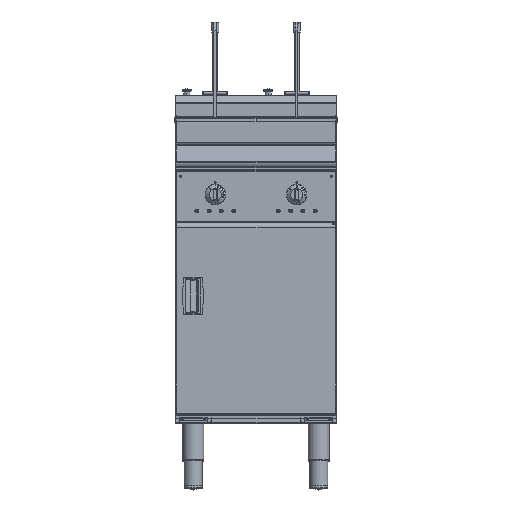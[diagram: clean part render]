
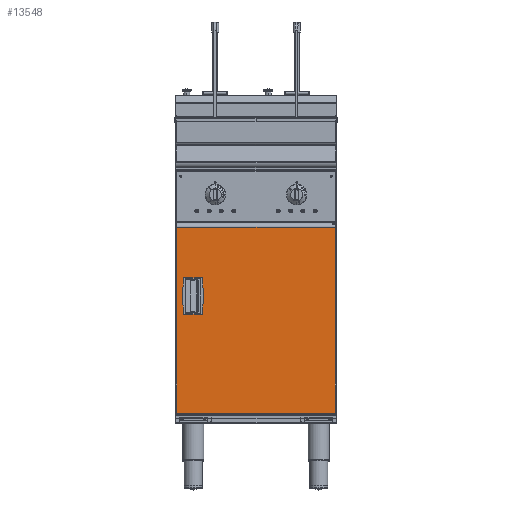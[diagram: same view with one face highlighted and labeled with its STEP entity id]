
A CAD part, top view. The second image highlights one B-rep face of the part: STEP entity #13548.
In plain terms, the highlighted planar face has unit normal (0, 0, 1).
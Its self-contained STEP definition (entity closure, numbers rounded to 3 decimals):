
#998 = CARTESIAN_POINT ( 'NONE',  ( 195.5, -725.1, -0.5 ) ) ;
#1050 = DIRECTION ( 'NONE',  ( -1., 0., 0. ) ) ;
#1398 = VERTEX_POINT ( 'NONE', #8304 ) ;
#2312 = LINE ( 'NONE', #48847, #25837 ) ;
#3746 = EDGE_CURVE ( 'NONE', #18654, #20071, #25296, .T. ) ;
#6996 = ORIENTED_EDGE ( 'NONE', *, *, #32562, .T. ) ;
#8304 = CARTESIAN_POINT ( 'NONE',  ( 193.5, -269.1, -0.5 ) ) ;
#10792 = DIRECTION ( 'NONE',  ( -1., 0., 0. ) ) ;
#11440 = VECTOR ( 'NONE', #40803, 1000. ) ;
#12671 = VECTOR ( 'NONE', #57671, 1000. ) ;
#13548 = ADVANCED_FACE ( 'NONE', ( #37859, #22127 ), #47224, .T. ) ;
#14012 = CARTESIAN_POINT ( 'NONE',  ( 193.5, -723.1, -0.5 ) ) ;
#14591 = ORIENTED_EDGE ( 'NONE', *, *, #59472, .F. ) ;
#14952 = DIRECTION ( 'NONE',  ( 1., 0., 0. ) ) ;
#15059 = LINE ( 'NONE', #35455, #11440 ) ;
#15531 = LINE ( 'NONE', #62017, #44603 ) ;
#16653 = CARTESIAN_POINT ( 'NONE',  ( -172., -479.6, -0.5 ) ) ;
#18654 = VERTEX_POINT ( 'NONE', #39798 ) ;
#20071 = VERTEX_POINT ( 'NONE', #33404 ) ;
#20546 = VERTEX_POINT ( 'NONE', #16653 ) ;
#21519 = CARTESIAN_POINT ( 'NONE',  ( -172., -394.6, -0.5 ) ) ;
#21940 = VERTEX_POINT ( 'NONE', #45948 ) ;
#22127 = FACE_OUTER_BOUND ( 'NONE', #57398, .T. ) ;
#25296 = LINE ( 'NONE', #45345, #49680 ) ;
#25746 = VECTOR ( 'NONE', #10792, 1000. ) ;
#25837 = VECTOR ( 'NONE', #49530, 1000. ) ;
#26386 = DIRECTION ( 'NONE',  ( 0., 1., 0. ) ) ;
#28623 = AXIS2_PLACEMENT_3D ( 'NONE', #998, #57625, #37169 ) ;
#29323 = EDGE_CURVE ( 'NONE', #42134, #52653, #31574, .T. ) ;
#29347 = EDGE_LOOP ( 'NONE', ( #14591, #54961, #34872, #47875 ) ) ;
#31574 = LINE ( 'NONE', #42596, #25746 ) ;
#31582 = ORIENTED_EDGE ( 'NONE', *, *, #54639, .T. ) ;
#32091 = CARTESIAN_POINT ( 'NONE',  ( -193.5, -269.1, -0.5 ) ) ;
#32562 = EDGE_CURVE ( 'NONE', #1398, #38806, #15531, .T. ) ;
#33007 = VECTOR ( 'NONE', #26386, 1000. ) ;
#33394 = EDGE_CURVE ( 'NONE', #42134, #1398, #56494, .T. ) ;
#33404 = CARTESIAN_POINT ( 'NONE',  ( -135.9, -394.6, -0.5 ) ) ;
#34872 = ORIENTED_EDGE ( 'NONE', *, *, #3746, .F. ) ;
#35455 = CARTESIAN_POINT ( 'NONE',  ( -193.5, -269.1, -0.5 ) ) ;
#36002 = LINE ( 'NONE', #56435, #49310 ) ;
#37169 = DIRECTION ( 'NONE',  ( 1., 0., 0. ) ) ;
#37586 = CARTESIAN_POINT ( 'NONE',  ( -193.5, -723.1, -0.5 ) ) ;
#37859 = FACE_BOUND ( 'NONE', #29347, .T. ) ;
#38806 = VERTEX_POINT ( 'NONE', #32091 ) ;
#39798 = CARTESIAN_POINT ( 'NONE',  ( -135.9, -479.6, -0.5 ) ) ;
#40803 = DIRECTION ( 'NONE',  ( 0., -1., 0. ) ) ;
#42134 = VERTEX_POINT ( 'NONE', #14012 ) ;
#42596 = CARTESIAN_POINT ( 'NONE',  ( 195.5, -723.1, -0.5 ) ) ;
#44603 = VECTOR ( 'NONE', #1050, 1000. ) ;
#45007 = DIRECTION ( 'NONE',  ( 0., 1., 0. ) ) ;
#45345 = CARTESIAN_POINT ( 'NONE',  ( -135.9, -394.6, -0.5 ) ) ;
#45948 = CARTESIAN_POINT ( 'NONE',  ( -172., -394.6, -0.5 ) ) ;
#47224 = PLANE ( 'NONE',  #28623 ) ;
#47875 = ORIENTED_EDGE ( 'NONE', *, *, #57866, .F. ) ;
#48847 = CARTESIAN_POINT ( 'NONE',  ( -172., -394.6, -0.5 ) ) ;
#49310 = VECTOR ( 'NONE', #14952, 1000. ) ;
#49530 = DIRECTION ( 'NONE',  ( 0., -1., 0. ) ) ;
#49680 = VECTOR ( 'NONE', #45007, 1000. ) ;
#49980 = ORIENTED_EDGE ( 'NONE', *, *, #33394, .T. ) ;
#52653 = VERTEX_POINT ( 'NONE', #37586 ) ;
#53691 = ORIENTED_EDGE ( 'NONE', *, *, #29323, .F. ) ;
#54639 = EDGE_CURVE ( 'NONE', #38806, #52653, #15059, .T. ) ;
#54961 = ORIENTED_EDGE ( 'NONE', *, *, #55986, .F. ) ;
#55986 = EDGE_CURVE ( 'NONE', #20071, #21940, #56666, .T. ) ;
#56435 = CARTESIAN_POINT ( 'NONE',  ( -172., -479.6, -0.5 ) ) ;
#56494 = LINE ( 'NONE', #57832, #33007 ) ;
#56666 = LINE ( 'NONE', #21519, #12671 ) ;
#57398 = EDGE_LOOP ( 'NONE', ( #53691, #49980, #6996, #31582 ) ) ;
#57625 = DIRECTION ( 'NONE',  ( 0., 0., 1. ) ) ;
#57671 = DIRECTION ( 'NONE',  ( -1., 0., 0. ) ) ;
#57832 = CARTESIAN_POINT ( 'NONE',  ( 193.5, -723.1, -0.5 ) ) ;
#57866 = EDGE_CURVE ( 'NONE', #20546, #18654, #36002, .T. ) ;
#59472 = EDGE_CURVE ( 'NONE', #21940, #20546, #2312, .T. ) ;
#62017 = CARTESIAN_POINT ( 'NONE',  ( 195.5, -269.1, -0.5 ) ) ;
